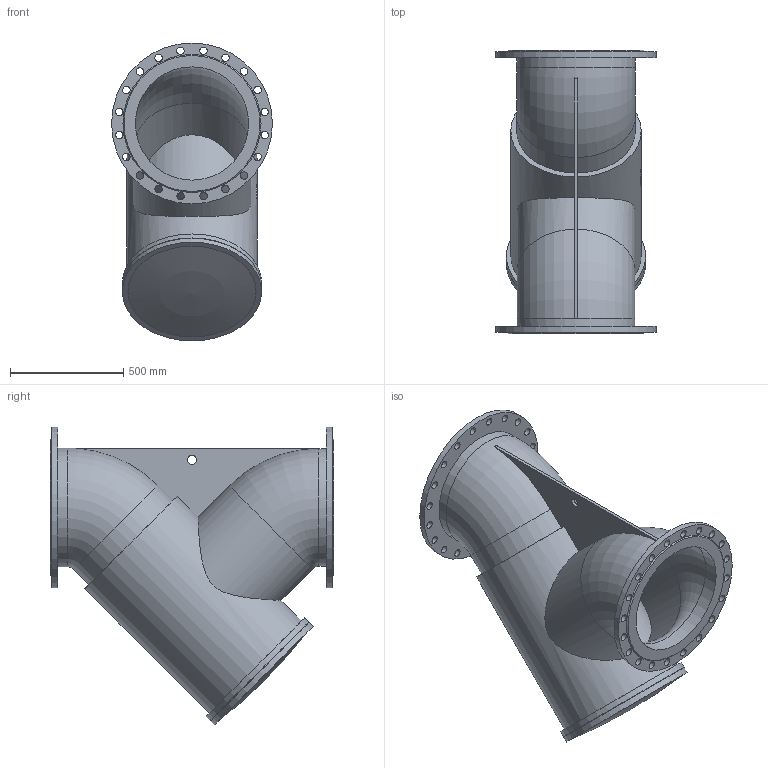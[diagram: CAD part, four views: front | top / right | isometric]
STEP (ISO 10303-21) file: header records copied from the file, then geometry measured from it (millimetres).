
FILE_DESCRIPTION(('STEP AP203'), '1');
FILE_NAME('Ôèëüòð ñåò÷àòûé ôëàíöåâûé 021Y.Z DN500 PN16', '', ('UNSPECIFIED'), ('UNSPECIFIED'), 'ASCON STEP Converter 1.6', 'ASCON Math Kernel', '');
FILE_SCHEMA(('CONFIG_CONTROL_DESIGN'));
Length unit declared in the file: millimetre
Bounding box: 710 x 1250 x 1315 mm (x, y, z)
Volume: 248642355.4 mm3; surface area: 6266989.9 mm2
Topology: 1 solids, 1 shells, 97 faces, 240 edges, 157 vertices
Faces by surface type: cylinder 63, plane 27, torus 4, cone 2, sphere 1
Full cylindrical faces by diameter (mm): 33 x40, 40 x1, 500 x4, 520 x1, 524 x1, 576 x1, 604 x1, 616 x2, 710 x2
Entity records: 4691 total; most frequent: CARTESIAN_POINT 1545, DIRECTION 493, ORIENTED_EDGE 360, EDGE_LOOP 250, AXIS2_PLACEMENT_3D 228, EDGE_CURVE 180, VERTEX_POINT 156, FACE_BOUND 136
